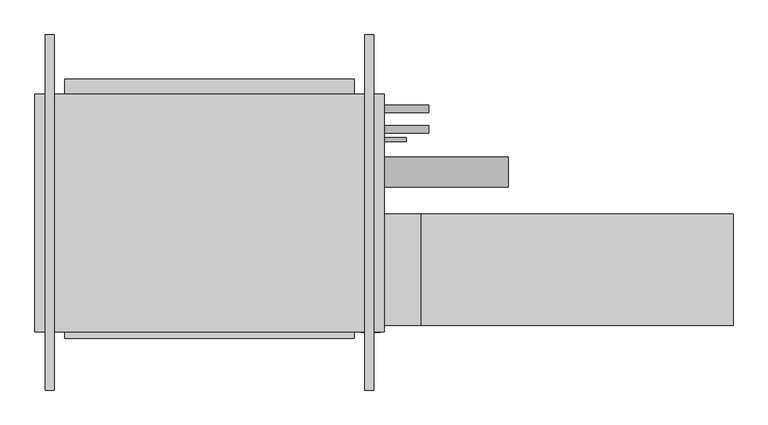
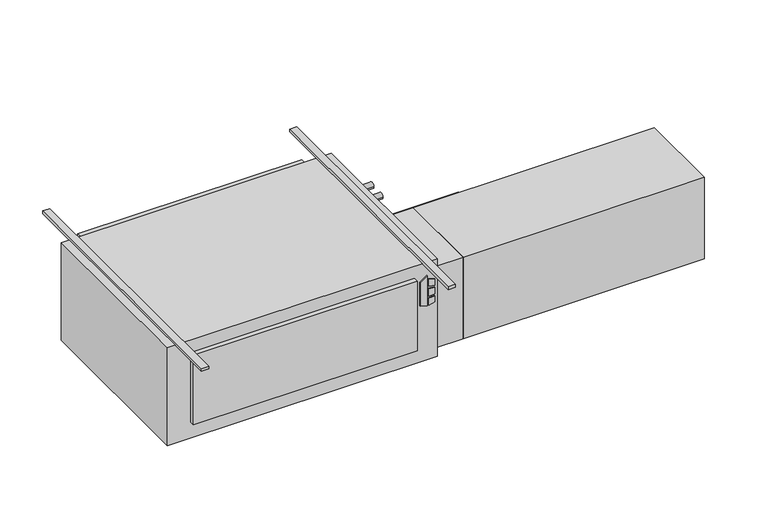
"""IFC4 building model written with IfcOpenShell, lengths in millimetres: proxy geometry."""

from ifc_helpers import new_model, si_unit, point, frame, frame_2d, origin, origin_with_axes, place, context, project, spatial, polyline, circle_curve, trimmed, segment, composite_curve, outline, extrude, source, transform, mapped, element, save


def mechanical_equipment_beda8904(model_context):
    return source(origin(), model_context, "Body", "SweptSolid", [
        extrude(outline(polyline([(-193.2519297, 671.5868862), (-203.2, 703.7602728), (-61.0290756, 703.7602728), (-84.0510817, 671.5868862), (-193.2519297, 671.5868862)])), frame((0.0, -647.7, 0.0), z_axis=(0.0, 1.0, 0.0), x_axis=(0.0, 0.0, 1.0)), (0.0, 0.0, 1.0), 3.175),
        extrude(outline(polyline([(-114.2526443, 710.5186058), (-117.4550368, 736.6), (-88.2261958, 736.6), (-80.1617807, 710.5186058), (-114.2526443, 710.5186058)])), frame((0.0, -647.7, 0.0), z_axis=(0.0, 1.0, 0.0), x_axis=(0.0, 0.0, 1.0)), (0.0, 0.0, 1.0), 3.175),
        extrude(outline(polyline([(-166.1161712, 736.6), (-169.7816721, 710.5186058), (-203.2, 710.5186058), (-194.5657628, 736.6), (-166.1161712, 736.6)])), frame((0.0, -647.7, 0.0), z_axis=(0.0, 1.0, 0.0), x_axis=(0.0, 0.0, 1.0)), (0.0, 0.0, 1.0), 3.175),
        extrude(outline(polyline([(-126.8010097, 736.6), (-124.5191834, 710.5186058), (-160.4567319, 710.5186058), (-157.7154669, 736.6), (-126.8010097, 736.6)])), frame((0.0, -647.7, 0.0), z_axis=(0.0, 1.0, 0.0), x_axis=(0.0, 0.0, 1.0)), (0.0, 0.0, 1.0), 3.175),
        extrude(outline(polyline([(647.7, -666.877), (-342.9, -666.877), (-342.9, -644.525), (647.7, -644.525), (647.7, -666.877)])), frame((0.0, 0.0, -381.0), z_axis=(0.0, 0.0, 1.0), x_axis=(1.0, 0.0, 0.0)), (0.0, 0.0, 1.0), 323.85),
        extrude(outline(polyline([(1943.1, -241.3), (1943.1, -622.3), (876.3, -622.3), (876.3, -241.3), (1943.1, -241.3)])), frame((0.0, 0.0, -431.8), z_axis=(0.0, 0.0, 1.0), x_axis=(1.0, 0.0, 0.0)), (0.0, 0.0, 1.0), 381.0),
        extrude(outline(polyline([(876.3, -241.3), (876.3, -622.3), (749.3, -622.3), (749.3, -241.3), (876.3, -241.3)])), frame((0.0, 0.0, -431.8), z_axis=(0.0, 0.0, 1.0), x_axis=(1.0, 0.0, 0.0)), (0.0, 0.0, 1.0), 381.0),
        extrude(outline(composite_curve([segment(trimmed(circle_curve(frame_2d((117.475, -171.45)), 12.7), [point((130.175, -171.45))], [point((104.775, -171.45))], False, "CARTESIAN"), True, "CONTINUOUS"), segment(trimmed(circle_curve(frame_2d((117.475, -171.45)), 12.7), [point((104.775, -171.45))], [point((130.175, -171.45))], False, "CARTESIAN"), True, "CONTINUOUS")], self_intersect=False)), frame((749.3, 0.0, 0.0), z_axis=(1.0, 0.0, 0.0), x_axis=(0.0, 1.0, 0.0)), (0.0, 0.0, 1.0), 152.4),
        extrude(outline(composite_curve([segment(trimmed(circle_curve(frame_2d((47.625, -177.8)), 12.7), [point((60.325, -177.8))], [point((34.925, -177.8))], False, "CARTESIAN"), True, "CONTINUOUS"), segment(trimmed(circle_curve(frame_2d((47.625, -177.8)), 12.7), [point((34.925, -177.8))], [point((60.325, -177.8))], False, "CARTESIAN"), True, "CONTINUOUS")], self_intersect=False)), frame((749.3, 0.0, 0.0), z_axis=(1.0, 0.0, 0.0), x_axis=(0.0, 1.0, 0.0)), (0.0, 0.0, 1.0), 152.4),
        extrude(outline(composite_curve([segment(trimmed(circle_curve(frame_2d((-98.4896516, -228.6360165)), 50.8), [point((-47.6896516, -228.6360165))], [point((-149.2896516, -228.6360165))], False, "CARTESIAN"), True, "CONTINUOUS"), segment(trimmed(circle_curve(frame_2d((-98.4896516, -228.6360165)), 50.8), [point((-149.2896516, -228.6360165))], [point((-47.6896516, -228.6360165))], False, "CARTESIAN"), True, "CONTINUOUS")], self_intersect=False)), frame((749.3, 0.0, 0.0), z_axis=(1.0, 0.0, 0.0), x_axis=(0.0, 1.0, 0.0)), (0.0, 0.0, 1.0), 425.45),
        extrude(outline(composite_curve([segment(trimmed(circle_curve(frame_2d((12.7, -409.575)), 6.35), [point((19.05, -409.575))], [point((6.35, -409.575))], False, "CARTESIAN"), True, "CONTINUOUS"), segment(trimmed(circle_curve(frame_2d((12.7, -409.575)), 6.35), [point((6.35, -409.575))], [point((19.05, -409.575))], False, "CARTESIAN"), True, "CONTINUOUS")], self_intersect=False)), frame((749.3, 0.0, 0.0), z_axis=(1.0, 0.0, 0.0), x_axis=(0.0, 1.0, 0.0)), (0.0, 0.0, 1.0), 76.2),
        extrude(outline(polyline([(749.3, 168.275), (749.3, -644.525), (-444.5, -644.525), (-444.5, 168.275), (749.3, 168.275)])), frame((0.0, 0.0, -457.2), z_axis=(0.0, 0.0, 1.0), x_axis=(1.0, 0.0, 0.0)), (0.0, 0.0, 1.0), 457.2),
        extrude(outline(polyline([(-342.9, 219.075), (647.7, 219.075), (647.7, 168.275), (-342.9, 168.275), (-342.9, 219.075)])), frame((0.0, 0.0, -381.0), z_axis=(0.0, 0.0, 1.0), x_axis=(1.0, 0.0, 0.0)), (0.0, 0.0, 1.0), 355.6),
        extrude(outline(polyline([(-377.825, 371.475), (-377.825, -844.677), (-409.575, -844.677), (-409.575, 371.475), (-377.825, 371.475)])), origin_with_axes(), (0.0, 0.0, 1.0), 12.7),
        extrude(outline(polyline([(714.375, 371.475), (714.375, -844.677), (682.625, -844.677), (682.625, 371.475), (714.375, 371.475)])), origin_with_axes(), (0.0, 0.0, 1.0), 12.7),
    ])


if __name__ == "__main__":
    model = new_model("IFC4")
    model_context = context("Model", 3, world=origin())
    ifc_project = project(units=[si_unit("LENGTHUNIT", "METRE", prefix="MILLI")], contexts=[model_context])
    site = spatial("IfcSite", under=ifc_project)
    building = spatial("IfcBuilding", under=site)
    placement = place(None, origin())
    mechanical_equipment_shape = mechanical_equipment_beda8904(model_context)
    element("IfcBuildingElementProxy", 1, Name="High_Capacity_Horizontal_Cabinet_Fan_Coil_Unit_-_HTY_-_IEC_-_2-Pipe_RH Side_2022 : Size 16 - 115v/60Hz/1Ph - 4/0 Coil - 4\" AirIn", ObjectType="High_Capacity_Horizontal_Cabinet_Fan_Coil_Unit_-_HTY_-_IEC_-_2-Pipe_RH Side_2022 : Size 16 - 115v/60Hz/1Ph - 4/0 Coil - 4\" AirIn", at=placement, inside=building, context=model_context, shape_type="MappedRepresentation", body=[
        mapped(mechanical_equipment_shape, transform((0.0, 0.0, 0.0), x_axis=(1.0, 0.0, 0.0), y_axis=(0.0, 1.0, 0.0), z_axis=(0.0, 0.0, 1.0))),
    ])
    save(model, "model.ifc")
